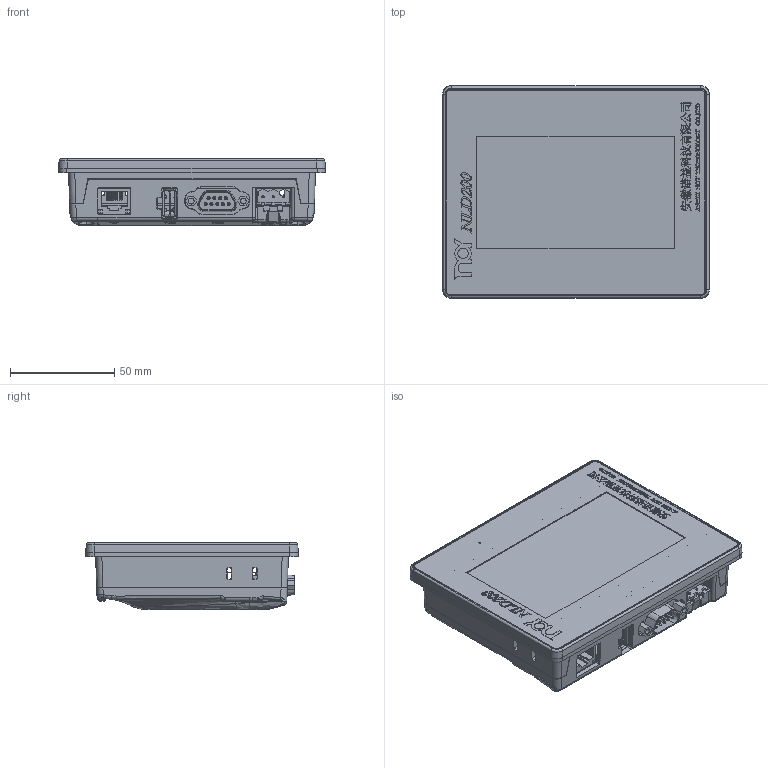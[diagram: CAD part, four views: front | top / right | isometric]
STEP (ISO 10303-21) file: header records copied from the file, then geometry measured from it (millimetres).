
FILE_DESCRIPTION (( 'STEP AP214' ), '1' );
FILE_NAME ('MT8051IP.STEP', '2023-08-11T09:55:20', ( 'Windows User' ), ( 'P R C' ), 'SwSTEP 2.0', 'SolidWorks 2016', '' );
FILE_SCHEMA (( 'AUTOMOTIVE_DESIGN' ));
Length unit declared in the file: millimetre
Products named in the file (1): MT8051IP
Bounding box: 128 x 102 x 32.28 mm (x, y, z)
Surface area: 81392.1 mm2 (no closed solid volume)
Topology: 0 solids, 32 shells, 2270 faces, 7458 edges, 5216 vertices
Faces by surface type: plane 1083, bspline 822, cylinder 210, cone 79, torus 50, sphere 26
Entity records: 138798 total; most frequent: CARTESIAN_POINT 55929, ORIENTED_EDGE 13114, DIRECTION 8906, EDGE_CURVE 7396, VERTEX_POINT 5198, LINE 4278, VECTOR 4278, EDGE_LOOP 2576
